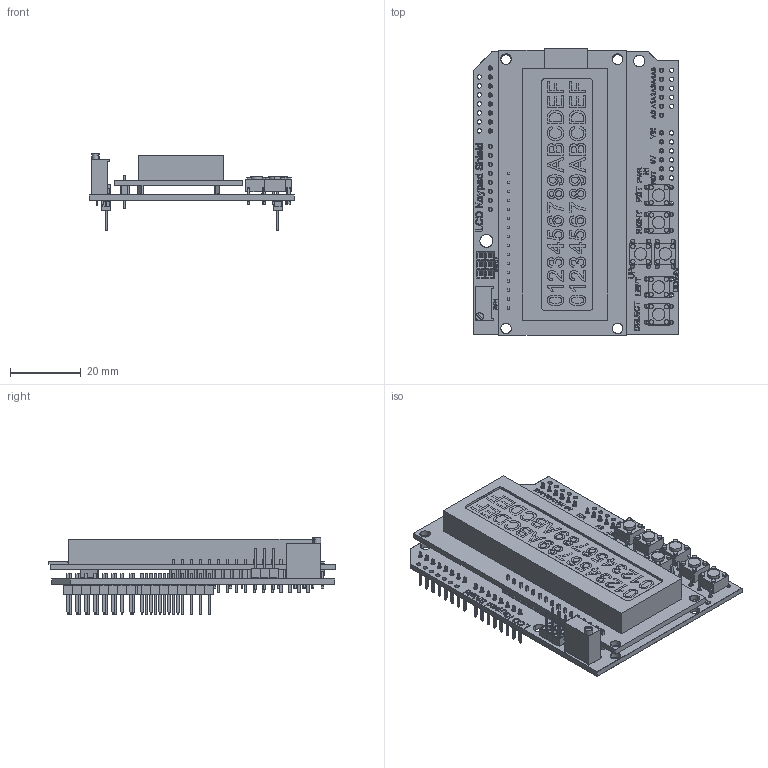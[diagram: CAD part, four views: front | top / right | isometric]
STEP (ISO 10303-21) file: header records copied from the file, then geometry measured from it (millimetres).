
FILE_DESCRIPTION(/* description */ (''),/* implementation_level */ '2;1');
FILE_NAME(/* name */ 'LCDKEY~1',/* time_stamp */ '2019-02-21T11:41:44-05:00',/* author */ (''),/* organization */ (''),/* preprocessor_version */ 'ST-DEVELOPER v15',/* originating_system */ '',/* authorisation */ '');
FILE_SCHEMA (('AUTOMOTIVE_DESIGN'));
Length unit declared in the file: inch
Products named in the file (1): Document
Bounding box: 57.91 x 81 x 21.54 mm (x, y, z)
Surface area: 26897.6 mm2 (no closed solid volume)
Topology: 0 solids, 1956 shells, 2062 faces, 4218 edges, 4006 vertices
Faces by surface type: plane 1662, bspline 400
Entity records: 66845 total; most frequent: CARTESIAN_POINT 30739, ORIENTED_EDGE 4430, EDGE_CURVE 4218, VERTEX_POINT 4006, B_SPLINE_CURVE_WITH_KNOTS 2981, EDGE_LOOP 2497, ADVANCED_FACE 2062, FACE_OUTER_BOUND 2062
